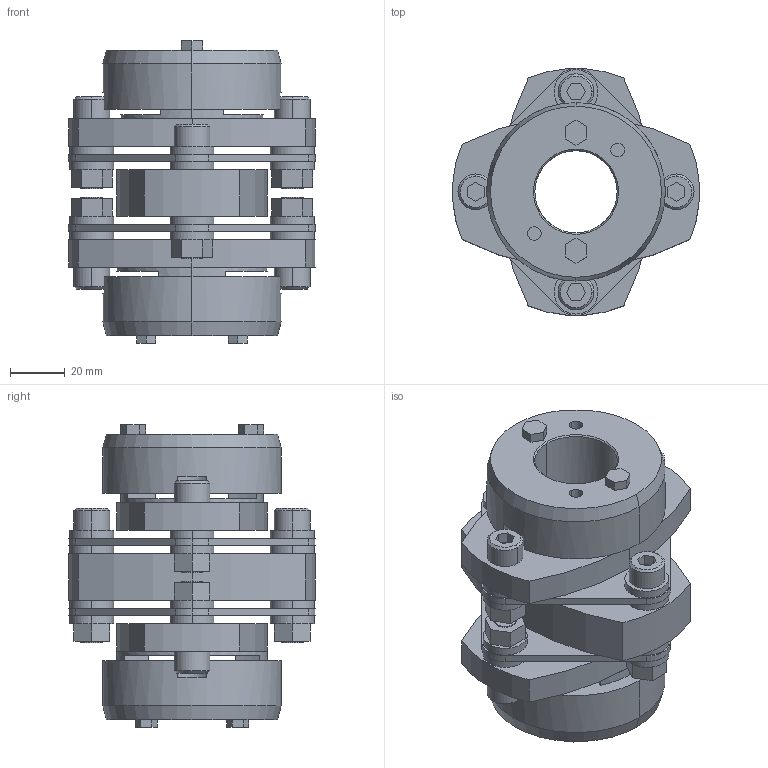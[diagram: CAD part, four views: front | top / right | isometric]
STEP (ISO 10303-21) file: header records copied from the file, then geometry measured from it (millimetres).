
FILE_DESCRIPTION((''),'2;1');
FILE_NAME('LCD-90T7-30×35.stp','2011-09-12T10:04:12',(''),(''),'AutoCAD STEP 2000i','AutoCAD 2000i',', , ');
FILE_SCHEMA(('CONFIG_CONTROL_DESIGN'));
Length unit declared in the file: millimetre
Products named in the file (11): LCD-90T7-30×35; 忣兜1; LC90T7-T035; LC90T7-T032; LC90T7-T030-1; LC90T7-T030; LC90T7-T025-1; LC90T7-T025; LC90T7-T019-1; LC90T7-T019; LCD90-ITA
Assembly tree (11 placements, depth 2):
  LCD-90T7-30×35
    忣兜1
    LC90T7-T035  x2
    LC90T7-T032
    LC90T7-T030-1
    LC90T7-T030
    LC90T7-T025-1
    LC90T7-T025
    LC90T7-T019-1
    LC90T7-T019
    LCD90-ITA
Bounding box: 90 x 89.94 x 110.3 mm (x, y, z)
Volume: 269947.7 mm3; surface area: 75078.5 mm2
Topology: 1 solids, 1 shells, 329 faces, 804 edges, 526 vertices
Faces by surface type: plane 181, cylinder 124, cone 24
Entity records: 10009 total; most frequent: DIRECTION 1782, CARTESIAN_POINT 1671, ORIENTED_EDGE 1608, EDGE_CURVE 804, AXIS2_PLACEMENT_3D 637, VERTEX_POINT 526, VECTOR 508, LINE 508
